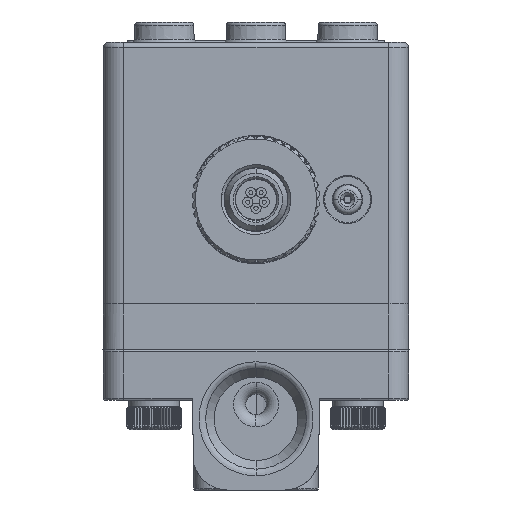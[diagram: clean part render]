
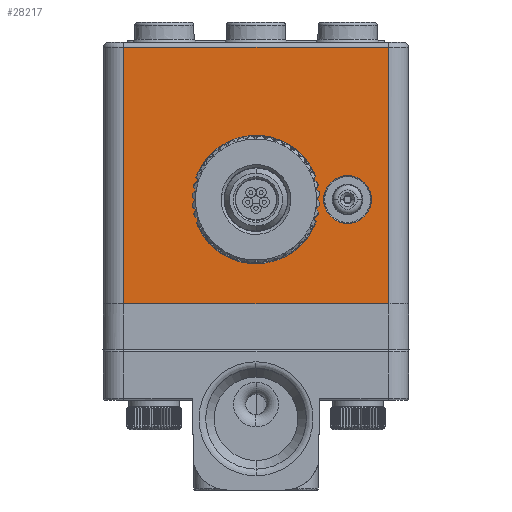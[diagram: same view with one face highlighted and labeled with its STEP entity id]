
A CAD part, front view. The second image highlights one B-rep face of the part: STEP entity #28217.
In plain terms, the highlighted planar face has unit normal (0, -1, 0).
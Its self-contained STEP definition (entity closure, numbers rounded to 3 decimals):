
#2868=DIRECTION('',(1.,0.,0.));
#2869=VECTOR('',#2868,26.);
#2870=CARTESIAN_POINT('',(-13.,-15.,
4.5));
#2871=LINE('',#2870,#2869);
#2880=DIRECTION('',(0.,0.,-1.));
#2881=VECTOR('',#2880,25.2);
#2882=CARTESIAN_POINT('',(-13.,-15.,29.7));
#2883=LINE('',#2882,#2881);
#2884=DIRECTION('',(1.,0.,0.));
#2885=VECTOR('',#2884,26.);
#2886=CARTESIAN_POINT('',(-13.,-15.,29.7));
#2887=LINE('',#2886,#2885);
#2888=DIRECTION('',(0.,0.,-1.));
#2889=VECTOR('',#2888,25.2);
#2890=CARTESIAN_POINT('',(13.,-15.,29.7));
#2891=LINE('',#2890,#2889);
#2892=CARTESIAN_POINT('',(0.,-15.,14.75));
#2893=DIRECTION('',(0.,-1.,0.));
#2894=DIRECTION('',(-0.898,0.,-0.44));
#2895=AXIS2_PLACEMENT_3D('',#2892,#2893,#2894);
#2897=DIRECTION('',(-0.017,0.,-1.));
#2898=VECTOR('',#2897,2.35);
#2899=CARTESIAN_POINT('',(5.8,-15.,14.75));
#2900=LINE('',#2899,#2898);
#2901=DIRECTION('',(0.017,0.,-1.));
#2902=VECTOR('',#2901,2.35);
#2903=CARTESIAN_POINT('',(5.759,-15.,17.1));
#2904=LINE('',#2903,#2902);
#2905=CARTESIAN_POINT('',(0.,-15.,14.75));
#2906=DIRECTION('',(0.,-1.,0.));
#2907=DIRECTION('',(0.898,0.,0.44));
#2908=AXIS2_PLACEMENT_3D('',#2905,#2906,#2907);
#2910=DIRECTION('',(0.017,0.,1.));
#2911=VECTOR('',#2910,2.35);
#2912=CARTESIAN_POINT('',(-5.8,-15.,14.75));
#2913=LINE('',#2912,#2911);
#2914=DIRECTION('',(-0.017,0.,1.));
#2915=VECTOR('',#2914,2.35);
#2916=CARTESIAN_POINT('',(-5.759,-15.,12.4));
#2917=LINE('',#2916,#2915);
#2918=CARTESIAN_POINT('',(9.,-15.,14.75));
#2919=DIRECTION('',(0.,1.,0.));
#2920=DIRECTION('',(-1.,0.,0.));
#2921=AXIS2_PLACEMENT_3D('',#2918,#2919,#2920);
#2923=CARTESIAN_POINT('',(9.,-15.,14.75));
#2924=DIRECTION('',(0.,1.,0.));
#2925=DIRECTION('',(1.,0.,0.));
#2926=AXIS2_PLACEMENT_3D('',#2923,#2924,#2925);
#10171=CARTESIAN_POINT('',(-4.759,-15.,17.083));
#10172=DIRECTION('',(0.,1.,0.));
#10173=DIRECTION('',(-1.,0.,0.017));
#10174=AXIS2_PLACEMENT_3D('',#10171,#10172,#10173);
#10971=CARTESIAN_POINT('',(4.759,-15.,17.083));
#10972=DIRECTION('',(0.,1.,0.));
#10973=DIRECTION('',(0.898,0.,0.44));
#10974=AXIS2_PLACEMENT_3D('',#10971,#10972,#10973);
#11025=CARTESIAN_POINT('',(4.759,-15.,12.417));
#11026=DIRECTION('',(0.,1.,0.));
#11027=DIRECTION('',(1.,0.,-0.017));
#11028=AXIS2_PLACEMENT_3D('',#11025,#11026,#11027);
#14665=CARTESIAN_POINT('',(-4.759,-15.,12.417));
#14666=DIRECTION('',(0.,1.,0.));
#14667=DIRECTION('',(-0.898,0.,-0.44));
#14668=AXIS2_PLACEMENT_3D('',#14665,#14666,#14667);
#22268=CARTESIAN_POINT('',(-13.,-15.,29.7));
#22269=VERTEX_POINT('',#22268);
#22272=CARTESIAN_POINT('',(13.,-15.,29.7));
#22273=VERTEX_POINT('',#22272);
#22404=CARTESIAN_POINT('',(6.646,-15.,14.75));
#22405=CARTESIAN_POINT('',(11.354,-15.,14.75));
#22406=VERTEX_POINT('',#22404);
#22407=VERTEX_POINT('',#22405);
#22656=CARTESIAN_POINT('',(5.8,-15.,14.75));
#22657=VERTEX_POINT('',#22656);
#22667=CARTESIAN_POINT('',(5.759,-15.,17.1));
#22668=VERTEX_POINT('',#22667);
#22669=CARTESIAN_POINT('',(5.759,-15.,12.4));
#22670=VERTEX_POINT('',#22669);
#22671=CARTESIAN_POINT('',(5.657,-15.,17.523));
#22672=VERTEX_POINT('',#22671);
#22673=CARTESIAN_POINT('',(5.657,-15.,11.977));
#22674=VERTEX_POINT('',#22673);
#22682=CARTESIAN_POINT('',(-5.657,-15.,17.523));
#22683=VERTEX_POINT('',#22682);
#22684=CARTESIAN_POINT('',(-5.657,-15.,11.977));
#22685=VERTEX_POINT('',#22684);
#22696=CARTESIAN_POINT('',(-5.759,-15.,12.4));
#22697=CARTESIAN_POINT('',(-5.8,-15.,14.75));
#22698=VERTEX_POINT('',#22696);
#22699=VERTEX_POINT('',#22697);
#22700=CARTESIAN_POINT('',(-5.759,-15.,17.1));
#22701=VERTEX_POINT('',#22700);
#22766=CARTESIAN_POINT('',(-13.,-15.,
4.5));
#22767=CARTESIAN_POINT('',(13.,-15.,
4.5));
#22768=VERTEX_POINT('',#22766);
#22769=VERTEX_POINT('',#22767);
#28176=CARTESIAN_POINT('',(-15.,-15.,2.9));
#28177=DIRECTION('',(0.,-1.,0.));
#28178=DIRECTION('',(1.,0.,0.));
#28179=AXIS2_PLACEMENT_3D('',#28176,#28177,#28178);
#28180=PLANE('',#28179);
#28182=ORIENTED_EDGE('',*,*,#28181,.F.);
#28184=ORIENTED_EDGE('',*,*,#28183,.T.);
#28185=ORIENTED_EDGE('',*,*,#28141,.T.);
#28186=ORIENTED_EDGE('',*,*,#28167,.F.);
#28187=EDGE_LOOP('',(#28182,#28184,#28185,#28186));
#28188=FACE_OUTER_BOUND('',#28187,.F.);
#28190=ORIENTED_EDGE('',*,*,#28189,.T.);
#28192=ORIENTED_EDGE('',*,*,#28191,.F.);
#28194=ORIENTED_EDGE('',*,*,#28193,.F.);
#28196=ORIENTED_EDGE('',*,*,#28195,.F.);
#28198=ORIENTED_EDGE('',*,*,#28197,.F.);
#28200=ORIENTED_EDGE('',*,*,#28199,.T.);
#28202=ORIENTED_EDGE('',*,*,#28201,.F.);
#28204=ORIENTED_EDGE('',*,*,#28203,.F.);
#28206=ORIENTED_EDGE('',*,*,#28205,.F.);
#28208=ORIENTED_EDGE('',*,*,#28207,.F.);
#28209=EDGE_LOOP('',(#28190,#28192,#28194,#28196,#28198,#28200,#28202,#28204,
#28206,#28208));
#28210=FACE_BOUND('',#28209,.F.);
#28212=ORIENTED_EDGE('',*,*,#28211,.F.);
#28214=ORIENTED_EDGE('',*,*,#28213,.F.);
#28215=EDGE_LOOP('',(#28212,#28214));
#28216=FACE_BOUND('',#28215,.F.);
#28217=ADVANCED_FACE('',(#28188,#28210,#28216),#28180,.T.);
#2896=CIRCLE('',#2895,6.3);
#2909=CIRCLE('',#2908,6.3);
#2922=CIRCLE('',#2921,2.354);
#2927=CIRCLE('',#2926,2.354);
#10175=CIRCLE('',#10174,1.);
#10975=CIRCLE('',#10974,1.);
#11029=CIRCLE('',#11028,1.);
#14669=CIRCLE('',#14668,1.);
#28141=EDGE_CURVE('',#22273,#22769,#2891,.T.);
#28167=EDGE_CURVE('',#22768,#22769,#2871,.T.);
#28181=EDGE_CURVE('',#22269,#22768,#2883,.T.);
#28183=EDGE_CURVE('',#22269,#22273,#2887,.T.);
#28189=EDGE_CURVE('',#22685,#22674,#2896,.T.);
#28191=EDGE_CURVE('',#22670,#22674,#11029,.T.);
#28193=EDGE_CURVE('',#22657,#22670,#2900,.T.);
#28195=EDGE_CURVE('',#22668,#22657,#2904,.T.);
#28197=EDGE_CURVE('',#22672,#22668,#10975,.T.);
#28199=EDGE_CURVE('',#22672,#22683,#2909,.T.);
#28201=EDGE_CURVE('',#22701,#22683,#10175,.T.);
#28203=EDGE_CURVE('',#22699,#22701,#2913,.T.);
#28205=EDGE_CURVE('',#22698,#22699,#2917,.T.);
#28207=EDGE_CURVE('',#22685,#22698,#14669,.T.);
#28211=EDGE_CURVE('',#22406,#22407,#2922,.T.);
#28213=EDGE_CURVE('',#22407,#22406,#2927,.T.);
